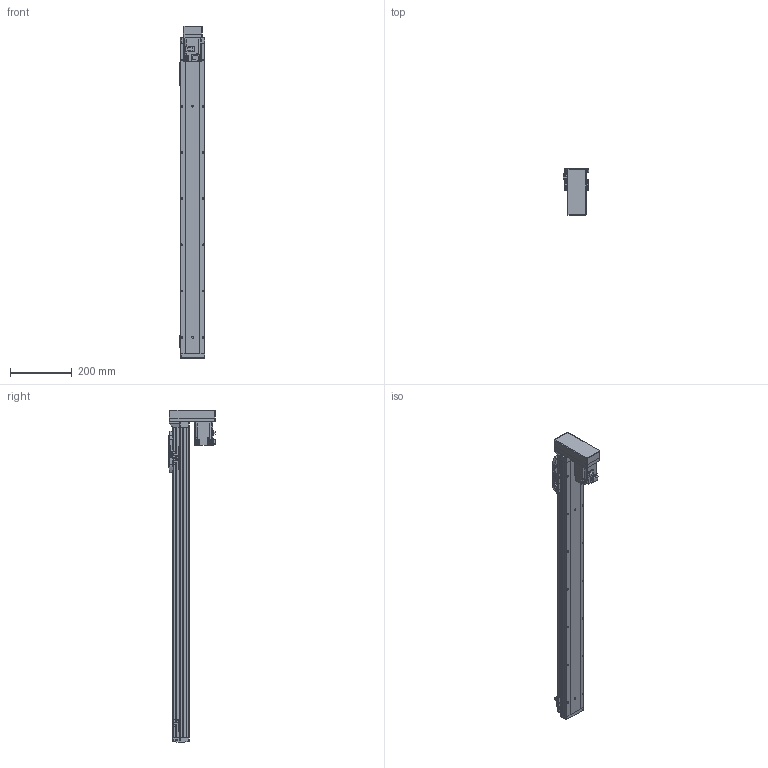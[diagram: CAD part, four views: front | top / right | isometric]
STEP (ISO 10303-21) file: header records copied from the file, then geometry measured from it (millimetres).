
FILE_DESCRIPTION (( 'STEP AP214' ), '1' );
FILE_NAME ('GSH8-850-BM-M20-1.step', '2025-01-07T06:09:19', ( '' ), ( '' ), 'SwSTEP 2.0', 'SolidWorks 2012', '' );
FILE_SCHEMA (( 'AUTOMOTIVE_DESIGN' ));
Length unit declared in the file: millimetre
Products named in the file (5): GSH8-BL-011-850-M20; HG-KR23_200W_Motor; GSH8-BL-008; GSH8-850-BM-M20-1; GSH8-GY-004
Assembly tree (4 placements, depth 2):
  GSH8-850-BM-M20-1
    GSH8-BL-011-850-M20
    GSH8-GY-004
    GSH8-BL-008
    HG-KR23_200W_Motor
Bounding box: 84 x 152.3 x 1078.2 mm (x, y, z)
Volume: 2457412.2 mm3; surface area: 635743.3 mm2
Topology: 4 solids, 8 shells, 1148 faces, 3017 edges, 1942 vertices
Faces by surface type: plane 648, cylinder 404, torus 42, cone 26, bspline 24, sphere 4
Entity records: 45475 total; most frequent: CARTESIAN_POINT 10708, DIRECTION 6125, ORIENTED_EDGE 6018, EDGE_CURVE 3009, AXIS2_PLACEMENT_3D 2063, LINE 1999, VECTOR 1999, VERTEX_POINT 1938
